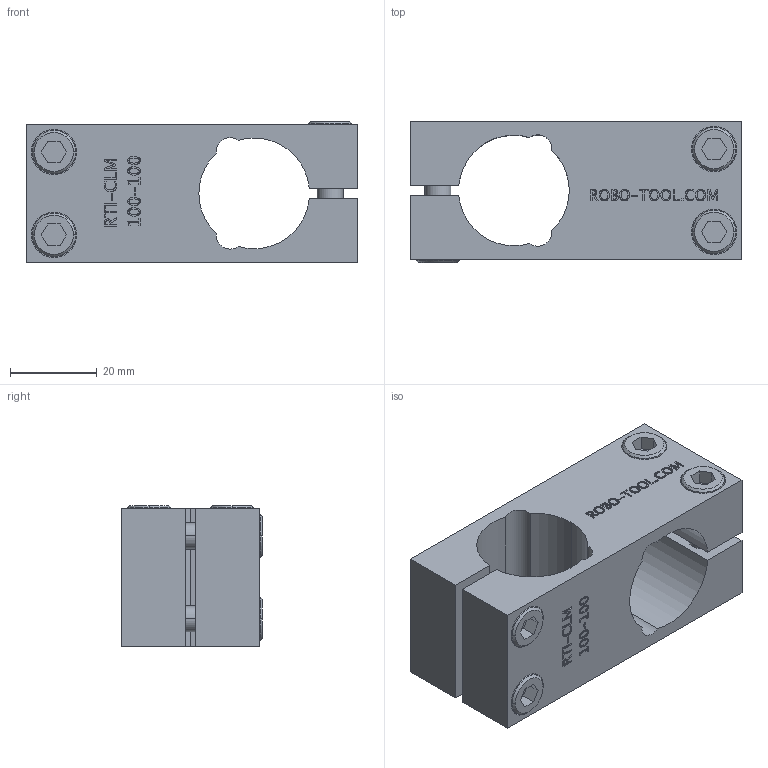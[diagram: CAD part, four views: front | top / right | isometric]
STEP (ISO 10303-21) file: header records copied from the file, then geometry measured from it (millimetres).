
FILE_DESCRIPTION (( 'STEP AP214' ), '1' );
FILE_NAME ('RTI-CLM-100-100.STEP', '2013-10-22T13:46:44', ( 'user' ), ( '' ), 'SwSTEP 2.0', 'SolidWorks 2009', '' );
FILE_SCHEMA (( 'AUTOMOTIVE_DESIGN' ));
Length unit declared in the file: inch
Products named in the file (4): RTI-CLM-100-100; M6 WASHER; M6 S.H.C.S._M6x25mm
Assembly tree (9 placements, depth 2):
  RTI-CLM-100-100
    M6 WASHER  x4
    M6 S.H.C.S._M6x25mm  x4
    RTI-CLM-100-100
Bounding box: 76.2 x 32.4 x 32.4 mm (x, y, z)
Volume: 41848.5 mm3; surface area: 22040.1 mm2
Topology: 9 solids, 9 shells, 436 faces, 1070 edges, 708 vertices
Faces by surface type: plane 237, bspline 106, cylinder 77, cone 16
Entity records: 19469 total; most frequent: CARTESIAN_POINT 9278, ORIENTED_EDGE 1840, DIRECTION 1358, EDGE_CURVE 920, VERTEX_POINT 612, VECTOR 598, LINE 598, EDGE_LOOP 432
